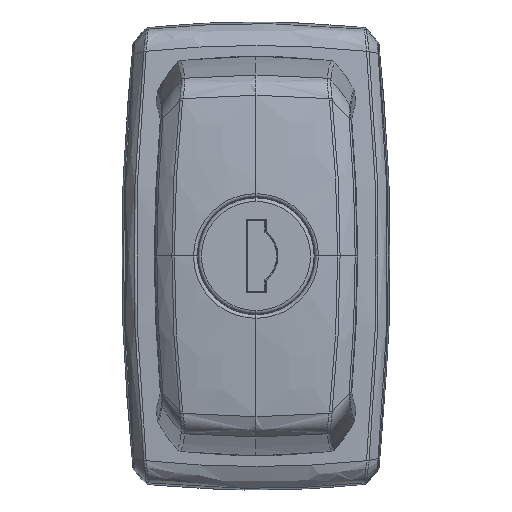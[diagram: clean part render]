
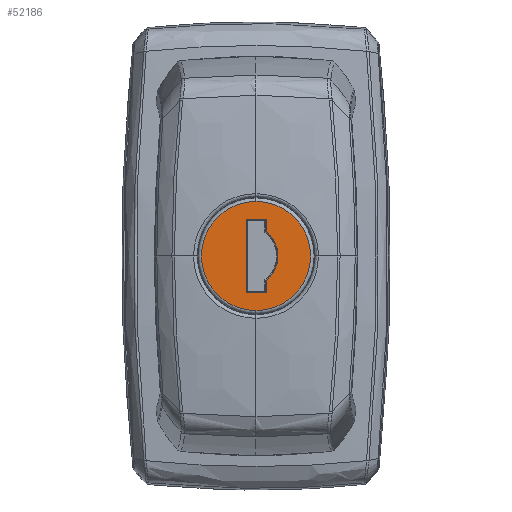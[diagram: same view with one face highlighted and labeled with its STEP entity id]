
A CAD part, front view. The second image highlights one B-rep face of the part: STEP entity #52186.
In plain terms, the highlighted planar face has unit normal (0, -1, 0) as drawn and (0, 0, -1) by its records, which use the part's own axes.
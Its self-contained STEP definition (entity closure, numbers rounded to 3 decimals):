
#805 = CARTESIAN_POINT ( 'NONE',  ( 5.35, 0., 0. ) ) ;
#2430 = EDGE_CURVE ( 'NONE', #18275, #44769, #55844, .T. ) ;
#2744 = VECTOR ( 'NONE', #16150, 1000. ) ;
#6165 = DIRECTION ( 'NONE',  ( 1., 0., 0. ) ) ;
#6332 = LINE ( 'NONE', #15522, #2744 ) ;
#7560 = VERTEX_POINT ( 'NONE', #55958 ) ;
#7872 = ORIENTED_EDGE ( 'NONE', *, *, #31758, .T. ) ;
#8314 = ORIENTED_EDGE ( 'NONE', *, *, #53706, .F. ) ;
#9644 = LINE ( 'NONE', #805, #15845 ) ;
#10775 = CARTESIAN_POINT ( 'NONE',  ( 3.548, -1.5, 0. ) ) ;
#11631 = EDGE_LOOP ( 'NONE', ( #59640, #55385, #8314, #16802, #42685, #50702, #49697, #34242 ) ) ;
#11852 = AXIS2_PLACEMENT_3D ( 'NONE', #43629, #34474, #27899 ) ;
#12011 = VERTEX_POINT ( 'NONE', #12733 ) ;
#12733 = CARTESIAN_POINT ( 'NONE',  ( 7.925, 0., 0. ) ) ;
#14560 = DIRECTION ( 'NONE',  ( 1., 0., 0. ) ) ;
#15522 = CARTESIAN_POINT ( 'NONE',  ( 0., -1.5, 0. ) ) ;
#15845 = VECTOR ( 'NONE', #20105, 1000. ) ;
#16150 = DIRECTION ( 'NONE',  ( 1., 0., 0. ) ) ;
#16802 = ORIENTED_EDGE ( 'NONE', *, *, #54187, .T. ) ;
#16899 = CARTESIAN_POINT ( 'NONE',  ( 0., 0., 0. ) ) ;
#17694 = LINE ( 'NONE', #22745, #46098 ) ;
#18275 = VERTEX_POINT ( 'NONE', #45549 ) ;
#18396 = DIRECTION ( 'NONE',  ( 1., 0., 0. ) ) ;
#19615 = FACE_OUTER_BOUND ( 'NONE', #39856, .T. ) ;
#19902 = AXIS2_PLACEMENT_3D ( 'NONE', #32241, #55905, #51492 ) ;
#19924 = AXIS2_PLACEMENT_3D ( 'NONE', #16899, #35873, #55086 ) ;
#20105 = DIRECTION ( 'NONE',  ( 0., 1., 0. ) ) ;
#20680 = CARTESIAN_POINT ( 'NONE',  ( 0., 1.4, 0. ) ) ;
#22412 = EDGE_CURVE ( 'NONE', #12011, #51941, #62253, .T. ) ;
#22745 = CARTESIAN_POINT ( 'NONE',  ( -5.35, 0., 0. ) ) ;
#24973 = AXIS2_PLACEMENT_3D ( 'NONE', #30170, #50992, #51612 ) ;
#25563 = EDGE_CURVE ( 'NONE', #49194, #54274, #6332, .T. ) ;
#26619 = VERTEX_POINT ( 'NONE', #10775 ) ;
#27604 = VERTEX_POINT ( 'NONE', #57295 ) ;
#27899 = DIRECTION ( 'NONE',  ( 1., 0., 0. ) ) ;
#29125 = CARTESIAN_POINT ( 'NONE',  ( 5.15, -1.3, 0. ) ) ;
#30170 = CARTESIAN_POINT ( 'NONE',  ( 0., 0., 0. ) ) ;
#30484 = LINE ( 'NONE', #49452, #40082 ) ;
#31323 = AXIS2_PLACEMENT_3D ( 'NONE', #43323, #57792, #14560 ) ;
#31698 = EDGE_CURVE ( 'NONE', #18275, #7560, #9644, .T. ) ;
#31758 = EDGE_CURVE ( 'NONE', #51941, #12011, #36021, .T. ) ;
#32241 = CARTESIAN_POINT ( 'NONE',  ( 5.15, 1.2, 0. ) ) ;
#34242 = ORIENTED_EDGE ( 'NONE', *, *, #35127, .T. ) ;
#34474 = DIRECTION ( 'NONE',  ( 0., 0., 1. ) ) ;
#35127 = EDGE_CURVE ( 'NONE', #26619, #44769, #30484, .T. ) ;
#35873 = DIRECTION ( 'NONE',  ( 0., 0., -1. ) ) ;
#36021 = CIRCLE ( 'NONE', #19924, 7.925 ) ;
#36397 = CIRCLE ( 'NONE', #31323, 4.57 ) ;
#37299 = DIRECTION ( 'NONE',  ( 0., -1., 0. ) ) ;
#39856 = EDGE_LOOP ( 'NONE', ( #61952, #7872 ) ) ;
#40063 = CARTESIAN_POINT ( 'NONE',  ( 5.15, -1.5, 0. ) ) ;
#40082 = VECTOR ( 'NONE', #6165, 1000. ) ;
#40572 = CARTESIAN_POINT ( 'NONE',  ( 5.15, 1.4, 0. ) ) ;
#41199 = CARTESIAN_POINT ( 'NONE',  ( -3.548, -1.5, 0. ) ) ;
#42685 = ORIENTED_EDGE ( 'NONE', *, *, #52493, .T. ) ;
#42978 = EDGE_CURVE ( 'NONE', #54274, #26619, #36397, .T. ) ;
#43323 = CARTESIAN_POINT ( 'NONE',  ( 0., 1.38, 0. ) ) ;
#43629 = CARTESIAN_POINT ( 'NONE',  ( 0., 0., 0. ) ) ;
#44417 = CARTESIAN_POINT ( 'NONE',  ( -7.925, 0., 0. ) ) ;
#44769 = VERTEX_POINT ( 'NONE', #40063 ) ;
#45549 = CARTESIAN_POINT ( 'NONE',  ( 5.35, -1.3, 0. ) ) ;
#46098 = VECTOR ( 'NONE', #37299, 1000. ) ;
#47114 = CIRCLE ( 'NONE', #19902, 0.2 ) ;
#47186 = PLANE ( 'NONE',  #11852 ) ;
#48958 = FACE_BOUND ( 'NONE', #11631, .T. ) ;
#49194 = VERTEX_POINT ( 'NONE', #51530 ) ;
#49399 = DIRECTION ( 'NONE',  ( -1., 0., 0. ) ) ;
#49452 = CARTESIAN_POINT ( 'NONE',  ( 0., -1.5, 0. ) ) ;
#49697 = ORIENTED_EDGE ( 'NONE', *, *, #42978, .T. ) ;
#50702 = ORIENTED_EDGE ( 'NONE', *, *, #25563, .T. ) ;
#50992 = DIRECTION ( 'NONE',  ( 0., 0., -1. ) ) ;
#51492 = DIRECTION ( 'NONE',  ( 1., 0., 0. ) ) ;
#51530 = CARTESIAN_POINT ( 'NONE',  ( -5.35, -1.5, 0. ) ) ;
#51612 = DIRECTION ( 'NONE',  ( 1., 0., 0. ) ) ;
#51941 = VERTEX_POINT ( 'NONE', #44417 ) ;
#52186 = ADVANCED_FACE ( 'NONE', ( #19615, #48958 ), #47186, .F. ) ;
#52493 = EDGE_CURVE ( 'NONE', #27604, #49194, #17694, .T. ) ;
#52797 = DIRECTION ( 'NONE',  ( 0., 0., -1. ) ) ;
#52824 = AXIS2_PLACEMENT_3D ( 'NONE', #29125, #52797, #18396 ) ;
#53706 = EDGE_CURVE ( 'NONE', #56477, #7560, #47114, .T. ) ;
#54130 = LINE ( 'NONE', #20680, #59232 ) ;
#54187 = EDGE_CURVE ( 'NONE', #56477, #27604, #54130, .T. ) ;
#54274 = VERTEX_POINT ( 'NONE', #41199 ) ;
#55086 = DIRECTION ( 'NONE',  ( 1., 0., 0. ) ) ;
#55385 = ORIENTED_EDGE ( 'NONE', *, *, #31698, .T. ) ;
#55844 = CIRCLE ( 'NONE', #52824, 0.2 ) ;
#55905 = DIRECTION ( 'NONE',  ( 0., 0., -1. ) ) ;
#55958 = CARTESIAN_POINT ( 'NONE',  ( 5.35, 1.2, 0. ) ) ;
#56477 = VERTEX_POINT ( 'NONE', #40572 ) ;
#57295 = CARTESIAN_POINT ( 'NONE',  ( -5.35, 1.4, 0. ) ) ;
#57792 = DIRECTION ( 'NONE',  ( 0., 0., 1. ) ) ;
#59232 = VECTOR ( 'NONE', #49399, 1000. ) ;
#59640 = ORIENTED_EDGE ( 'NONE', *, *, #2430, .F. ) ;
#61952 = ORIENTED_EDGE ( 'NONE', *, *, #22412, .T. ) ;
#62253 = CIRCLE ( 'NONE', #24973, 7.925 ) ;
